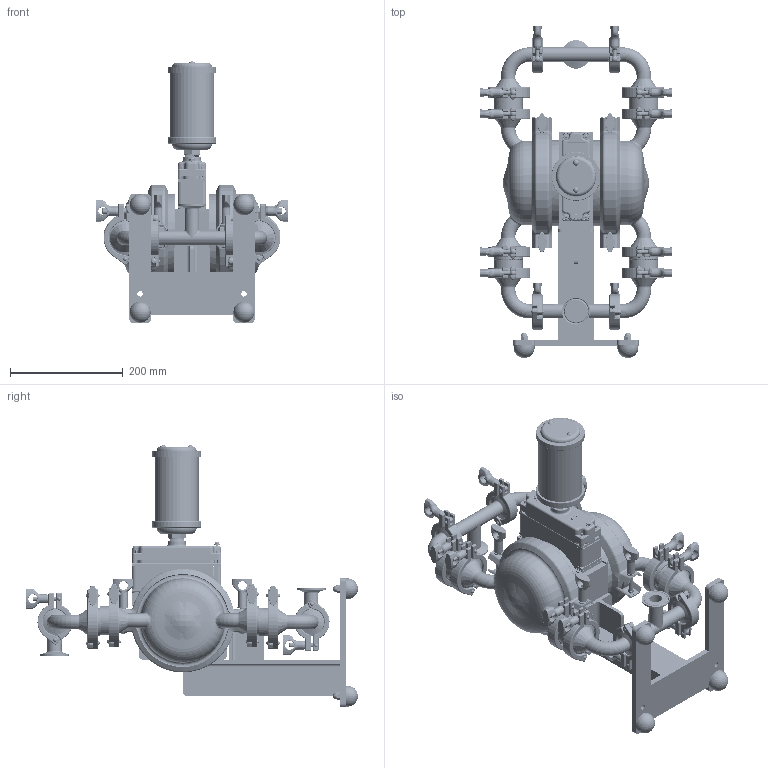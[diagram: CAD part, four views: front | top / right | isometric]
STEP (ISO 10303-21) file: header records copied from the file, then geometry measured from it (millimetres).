
FILE_DESCRIPTION (( 'STEP AP203' ), '1' );
FILE_NAME ('PS2_Saniflo_HS_Fixed.STEP', '2022-05-27T09:00:07', ( '' ), ( '' ), 'SwSTEP 2.0', 'SolidWorks 2019', '' );
FILE_SCHEMA (( 'CONFIG_CONTROL_DESIGN' ));
Length unit declared in the file: inch
Products named in the file (1): PS2_Saniflo_HS_Fixed
Bounding box: 341.07 x 588.91 x 464.55 mm (x, y, z)
Volume: 8378941.5 mm3; surface area: 923166.5 mm2
Topology: 1 solids, 1 shells, 6816 faces, 16576 edges, 9726 vertices
Faces by surface type: cylinder 2059, plane 1499, torus 1268, bspline 1100, cone 534, sphere 356
Entity records: 324620 total; most frequent: CARTESIAN_POINT 175851, ORIENTED_EDGE 32704, DIRECTION 29751, EDGE_CURVE 16352, AXIS2_PLACEMENT_3D 12229, VERTEX_POINT 9670, EDGE_LOOP 7132, ADVANCED_FACE 6816
